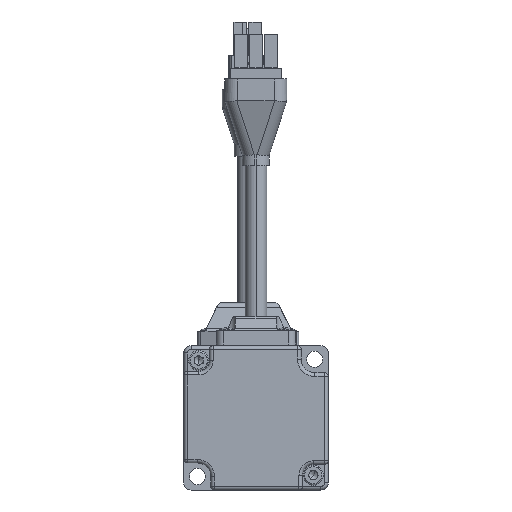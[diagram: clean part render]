
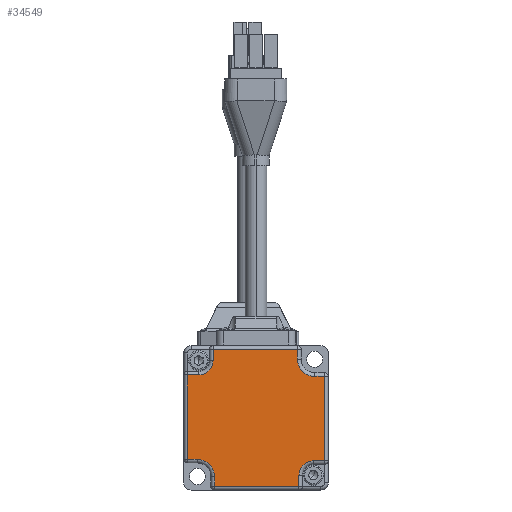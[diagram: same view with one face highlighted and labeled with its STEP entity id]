
A CAD part, front view. The second image highlights one B-rep face of the part: STEP entity #34549.
In plain terms, the highlighted planar face has unit normal (0, -1, 0).
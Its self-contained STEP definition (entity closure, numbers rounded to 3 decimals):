
#2474 = CARTESIAN_POINT ( 'NONE',  ( -11.5, 0., -19. ) ) ;
#2475 = CARTESIAN_POINT ( 'NONE',  ( 11.91, 0., -19. ) ) ;
#4101 = EDGE_LOOP ( 'NONE', ( #12449, #12448, #12447, #12446, #12445, #12444, #12443, #12442, #12441, #12440, #12439, #12438, #12437, #12436, #12435, #12434 ) ) ;
#6817 = FACE_OUTER_BOUND ( 'NONE', #4101, .T. ) ;
#8094 = LINE ( 'NONE', #17647, #8100 ) ;
#8096 = LINE ( 'NONE', #17645, #8098 ) ;
#8098 = VECTOR ( 'NONE', #17641, 1000. ) ;
#8099 = CIRCLE ( 'NONE', #44992, 4. ) ;
#8100 = VECTOR ( 'NONE', #17652, 1000. ) ;
#8101 = LINE ( 'NONE', #17651, #8103 ) ;
#8102 = LINE ( 'NONE', #17658, #8105 ) ;
#8103 = VECTOR ( 'NONE', #17646, 1000. ) ;
#8104 = LINE ( 'NONE', #17660, #8107 ) ;
#8105 = VECTOR ( 'NONE', #17659, 1000. ) ;
#8106 = CIRCLE ( 'NONE', #44993, 4.8 ) ;
#8107 = VECTOR ( 'NONE', #17661, 1000. ) ;
#8108 = LINE ( 'NONE', #17653, #8110 ) ;
#8109 = LINE ( 'NONE', #17667, #8112 ) ;
#8110 = VECTOR ( 'NONE', #17654, 1000. ) ;
#8111 = LINE ( 'NONE', #17669, #8114 ) ;
#8112 = VECTOR ( 'NONE', #17668, 1000. ) ;
#8113 = CIRCLE ( 'NONE', #44994, 4. ) ;
#8114 = VECTOR ( 'NONE', #17670, 1000. ) ;
#8115 = LINE ( 'NONE', #17662, #8117 ) ;
#8116 = LINE ( 'NONE', #17676, #8119 ) ;
#8117 = VECTOR ( 'NONE', #17663, 1000. ) ;
#8118 = LINE ( 'NONE', #17678, #8121 ) ;
#8119 = VECTOR ( 'NONE', #17677, 1000. ) ;
#8120 = CIRCLE ( 'NONE', #44995, 4.8 ) ;
#8121 = VECTOR ( 'NONE', #17679, 1000. ) ;
#8122 = LINE ( 'NONE', #17671, #8124 ) ;
#8124 = VECTOR ( 'NONE', #17672, 1000. ) ;
#12434 = ORIENTED_EDGE ( 'NONE', *, *, #43606, .T. ) ;
#12435 = ORIENTED_EDGE ( 'NONE', *, *, #43605, .T. ) ;
#12436 = ORIENTED_EDGE ( 'NONE', *, *, #43604, .T. ) ;
#12437 = ORIENTED_EDGE ( 'NONE', *, *, #43603, .T. ) ;
#12438 = ORIENTED_EDGE ( 'NONE', *, *, #43602, .T. ) ;
#12439 = ORIENTED_EDGE ( 'NONE', *, *, #43601, .T. ) ;
#12440 = ORIENTED_EDGE ( 'NONE', *, *, #43600, .T. ) ;
#12441 = ORIENTED_EDGE ( 'NONE', *, *, #43599, .T. ) ;
#12442 = ORIENTED_EDGE ( 'NONE', *, *, #43598, .T. ) ;
#12443 = ORIENTED_EDGE ( 'NONE', *, *, #43597, .T. ) ;
#12444 = ORIENTED_EDGE ( 'NONE', *, *, #43596, .T. ) ;
#12445 = ORIENTED_EDGE ( 'NONE', *, *, #43595, .T. ) ;
#12446 = ORIENTED_EDGE ( 'NONE', *, *, #43594, .T. ) ;
#12447 = ORIENTED_EDGE ( 'NONE', *, *, #43593, .T. ) ;
#12448 = ORIENTED_EDGE ( 'NONE', *, *, #43592, .T. ) ;
#12449 = ORIENTED_EDGE ( 'NONE', *, *, #43591, .T. ) ;
#17641 = DIRECTION ( 'NONE',  ( 1., 0., 0. ) ) ;
#17645 = CARTESIAN_POINT ( 'NONE',  ( -20., 0., -19. ) ) ;
#17646 = DIRECTION ( 'NONE',  ( 1., 0., 0. ) ) ;
#17647 = CARTESIAN_POINT ( 'NONE',  ( 11.91, 0., 20. ) ) ;
#17651 = CARTESIAN_POINT ( 'NONE',  ( -20., 0., -11.91 ) ) ;
#17652 = DIRECTION ( 'NONE',  ( 0., 0., 1. ) ) ;
#17653 = CARTESIAN_POINT ( 'NONE',  ( 11.5, 0., 20. ) ) ;
#17654 = DIRECTION ( 'NONE',  ( 0., 0., 1. ) ) ;
#17655 = CARTESIAN_POINT ( 'NONE',  ( 15.91, 0., -15.91 ) ) ;
#17656 = DIRECTION ( 'NONE',  ( 0., 1., 0. ) ) ;
#17657 = DIRECTION ( 'NONE',  ( 0., 0., 1. ) ) ;
#17658 = CARTESIAN_POINT ( 'NONE',  ( 19., 0., 20. ) ) ;
#17659 = DIRECTION ( 'NONE',  ( 0., 0., 1. ) ) ;
#17660 = CARTESIAN_POINT ( 'NONE',  ( -20., 0., 11.5 ) ) ;
#17661 = DIRECTION ( 'NONE',  ( -1., 0., 0. ) ) ;
#17662 = CARTESIAN_POINT ( 'NONE',  ( -20., 0., 11.91 ) ) ;
#17663 = DIRECTION ( 'NONE',  ( -1., 0., 0. ) ) ;
#17664 = CARTESIAN_POINT ( 'NONE',  ( 16.3, 0., 16.3 ) ) ;
#17665 = DIRECTION ( 'NONE',  ( 0., 1., 0. ) ) ;
#17666 = DIRECTION ( 'NONE',  ( 0., 0., 1. ) ) ;
#17667 = CARTESIAN_POINT ( 'NONE',  ( -20., 0., 19. ) ) ;
#17668 = DIRECTION ( 'NONE',  ( -1., 0., 0. ) ) ;
#17669 = CARTESIAN_POINT ( 'NONE',  ( -11.91, 0., 20. ) ) ;
#17670 = DIRECTION ( 'NONE',  ( 0., 0., -1. ) ) ;
#17671 = CARTESIAN_POINT ( 'NONE',  ( -11.5, 0., 20. ) ) ;
#17672 = DIRECTION ( 'NONE',  ( 0., 0., -1. ) ) ;
#17673 = CARTESIAN_POINT ( 'NONE',  ( -15.91, 0., 15.91 ) ) ;
#17674 = DIRECTION ( 'NONE',  ( 0., 1., 0. ) ) ;
#17675 = DIRECTION ( 'NONE',  ( 0., 0., 1. ) ) ;
#17676 = CARTESIAN_POINT ( 'NONE',  ( -19., 0., 20. ) ) ;
#17677 = DIRECTION ( 'NONE',  ( 0., 0., -1. ) ) ;
#17678 = CARTESIAN_POINT ( 'NONE',  ( -20., 0., -11.5 ) ) ;
#17679 = DIRECTION ( 'NONE',  ( 1., 0., 0. ) ) ;
#17680 = CARTESIAN_POINT ( 'NONE',  ( -16.3, 0., -16.3 ) ) ;
#17681 = DIRECTION ( 'NONE',  ( 0., 1., 0. ) ) ;
#17682 = DIRECTION ( 'NONE',  ( 0., 0., 1. ) ) ;
#25406 = CARTESIAN_POINT ( 'NONE',  ( 19., 0., -11.91 ) ) ;
#25407 = CARTESIAN_POINT ( 'NONE',  ( 15.91, 0., -11.91 ) ) ;
#25408 = CARTESIAN_POINT ( 'NONE',  ( 11.5, 0., 19. ) ) ;
#25411 = CARTESIAN_POINT ( 'NONE',  ( 11.5, 0., 16.3 ) ) ;
#25412 = CARTESIAN_POINT ( 'NONE',  ( 11.91, 0., -15.91 ) ) ;
#25414 = CARTESIAN_POINT ( 'NONE',  ( -19., 0., -11.5 ) ) ;
#25415 = CARTESIAN_POINT ( 'NONE',  ( -15.91, 0., 11.91 ) ) ;
#25417 = CARTESIAN_POINT ( 'NONE',  ( 19., 0., 11.5 ) ) ;
#25418 = CARTESIAN_POINT ( 'NONE',  ( -16.3, 0., -11.5 ) ) ;
#25420 = CARTESIAN_POINT ( 'NONE',  ( -11.91, 0., 19. ) ) ;
#25422 = CARTESIAN_POINT ( 'NONE',  ( 16.3, 0., 11.5 ) ) ;
#25425 = CARTESIAN_POINT ( 'NONE',  ( -11.5, 0., -16.3 ) ) ;
#25429 = CARTESIAN_POINT ( 'NONE',  ( -19., 0., 11.91 ) ) ;
#25430 = CARTESIAN_POINT ( 'NONE',  ( -11.91, 0., 15.91 ) ) ;
#28754 = CARTESIAN_POINT ( 'NONE',  ( -20., 0., 20. ) ) ;
#28759 = PLANE ( 'NONE',  #44612 ) ;
#28762 = DIRECTION ( 'NONE',  ( 0., 1., 0. ) ) ;
#28763 = DIRECTION ( 'NONE',  ( 0., 0., 1. ) ) ;
#34549 = ADVANCED_FACE ( 'NONE', ( #6817 ), #28759, .F. ) ;
#40824 = VERTEX_POINT ( 'NONE', #2474 ) ;
#40827 = VERTEX_POINT ( 'NONE', #2475 ) ;
#43591 = EDGE_CURVE ( 'NONE', #40824, #40827, #8096, .T. ) ;
#43592 = EDGE_CURVE ( 'NONE', #40827, #46650, #8094, .T. ) ;
#43593 = EDGE_CURVE ( 'NONE', #46650, #46645, #8099, .T. ) ;
#43594 = EDGE_CURVE ( 'NONE', #46645, #46644, #8101, .T. ) ;
#43595 = EDGE_CURVE ( 'NONE', #46644, #46655, #8102, .T. ) ;
#43596 = EDGE_CURVE ( 'NONE', #46655, #46660, #8104, .T. ) ;
#43597 = EDGE_CURVE ( 'NONE', #46660, #46649, #8106, .T. ) ;
#43598 = EDGE_CURVE ( 'NONE', #46649, #46646, #8108, .T. ) ;
#43599 = EDGE_CURVE ( 'NONE', #46646, #46658, #8109, .T. ) ;
#43600 = EDGE_CURVE ( 'NONE', #46658, #46668, #8111, .T. ) ;
#43601 = EDGE_CURVE ( 'NONE', #46668, #46653, #8113, .T. ) ;
#43602 = EDGE_CURVE ( 'NONE', #46653, #46667, #8115, .T. ) ;
#43603 = EDGE_CURVE ( 'NONE', #46667, #46652, #8116, .T. ) ;
#43604 = EDGE_CURVE ( 'NONE', #46652, #46656, #8118, .T. ) ;
#43605 = EDGE_CURVE ( 'NONE', #46656, #46663, #8120, .T. ) ;
#43606 = EDGE_CURVE ( 'NONE', #46663, #40824, #8122, .T. ) ;
#44612 = AXIS2_PLACEMENT_3D ( 'NONE', #28754, #28762, #28763 ) ;
#44992 = AXIS2_PLACEMENT_3D ( 'NONE', #17655, #17656, #17657 ) ;
#44993 = AXIS2_PLACEMENT_3D ( 'NONE', #17664, #17665, #17666 ) ;
#44994 = AXIS2_PLACEMENT_3D ( 'NONE', #17673, #17674, #17675 ) ;
#44995 = AXIS2_PLACEMENT_3D ( 'NONE', #17680, #17681, #17682 ) ;
#46644 = VERTEX_POINT ( 'NONE', #25406 ) ;
#46645 = VERTEX_POINT ( 'NONE', #25407 ) ;
#46646 = VERTEX_POINT ( 'NONE', #25408 ) ;
#46649 = VERTEX_POINT ( 'NONE', #25411 ) ;
#46650 = VERTEX_POINT ( 'NONE', #25412 ) ;
#46652 = VERTEX_POINT ( 'NONE', #25414 ) ;
#46653 = VERTEX_POINT ( 'NONE', #25415 ) ;
#46655 = VERTEX_POINT ( 'NONE', #25417 ) ;
#46656 = VERTEX_POINT ( 'NONE', #25418 ) ;
#46658 = VERTEX_POINT ( 'NONE', #25420 ) ;
#46660 = VERTEX_POINT ( 'NONE', #25422 ) ;
#46663 = VERTEX_POINT ( 'NONE', #25425 ) ;
#46667 = VERTEX_POINT ( 'NONE', #25429 ) ;
#46668 = VERTEX_POINT ( 'NONE', #25430 ) ;
